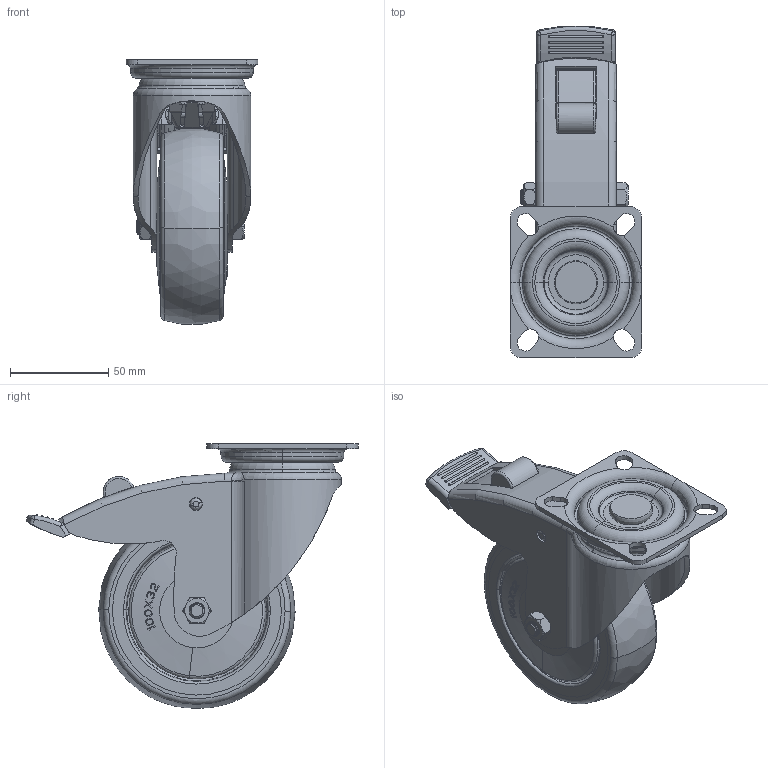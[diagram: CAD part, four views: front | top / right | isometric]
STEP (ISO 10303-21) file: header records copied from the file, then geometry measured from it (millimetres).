
FILE_DESCRIPTION((''),'2;1');
FILE_NAME('5102_ASM','2013-05-09T',('long-way'),(''),'PRO/ENGINEER BY PARAMETRIC TECHNOLOGY CORPORATION, 2011310','PRO/ENGINEER BY PARAMETRIC TECHNOLOGY CORPORATION, 2011310','');
FILE_SCHEMA(('CONFIG_CONTROL_DESIGN'));
Length unit declared in the file: millimetre
Products named in the file (54): 100-TENTE-ZJ__1; MANIFOLD_SOLID_BREP_3933; MANIFOLD_SOLID_BREP_3971; MANIFOLD_SOLID_BREP_4009; MANIFOLD_SOLID_BREP_4047; MANIFOLD_SOLID_BREP_4085; MANIFOLD_SOLID_BREP_4123; MANIFOLD_SOLID_BREP_4161; MANIFOLD_SOLID_BREP_4199; MANIFOLD_SOLID_BREP_4237; MANIFOLD_SOLID_BREP_4275; MANIFOLD_SOLID_BREP_4313; MANIFOLD_SOLID_BREP_4351; MANIFOLD_SOLID_BREP_4389; MANIFOLD_SOLID_BREP_4427; MANIFOLD_SOLID_BREP_4465; MANIFOLD_SOLID_BREP_4503; MANIFOLD_SOLID_BREP_4541; 6BJ__1_ASM; MANIFOLD_SOLID_BREP_10991; MANIFOLD_SOLID_BREP_11029; MANIFOLD_SOLID_BREP_11067; MANIFOLD_SOLID_BREP_11105; MANIFOLD_SOLID_BREP_11143; MANIFOLD_SOLID_BREP_11181; MANIFOLD_SOLID_BREP_11219; MANIFOLD_SOLID_BREP_11257; MANIFOLD_SOLID_BREP_11295; MANIFOLD_SOLID_BREP_11333; MANIFOLD_SOLID_BREP_11371; MANIFOLD_SOLID_BREP_11409; MANIFOLD_SOLID_BREP_11447; MANIFOLD_SOLID_BREP_11485; MANIFOLD_SOLID_BREP_11523; MANIFOLD_SOLID_BREP_11561; MANIFOLD_SOLID_BREP_11599; 5BJ__1_ASM; 150-TENTE-SAWEI__1; 150-TENTE-MP__1; 100-TENTE-NEIXIN__1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
Assembly tree (54 placements, depth 5):
  5102_ASM
    100TENTE_ASM_4_ASM
      100-TENTE-ZJ__1
      6BJ__1_ASM
        MANIFOLD_SOLID_BREP_3933
        MANIFOLD_SOLID_BREP_3971
        MANIFOLD_SOLID_BREP_4009
        MANIFOLD_SOLID_BREP_4047
        MANIFOLD_SOLID_BREP_4085
        MANIFOLD_SOLID_BREP_4123
        MANIFOLD_SOLID_BREP_4161
        MANIFOLD_SOLID_BREP_4199
        MANIFOLD_SOLID_BREP_4237
        MANIFOLD_SOLID_BREP_4275
        MANIFOLD_SOLID_BREP_4313
        MANIFOLD_SOLID_BREP_4351
        MANIFOLD_SOLID_BREP_4389
        MANIFOLD_SOLID_BREP_4427
        MANIFOLD_SOLID_BREP_4465
        MANIFOLD_SOLID_BREP_4503
        MANIFOLD_SOLID_BREP_4541
      5BJ__1_ASM
        MANIFOLD_SOLID_BREP_10991
        MANIFOLD_SOLID_BREP_11029
        MANIFOLD_SOLID_BREP_11067
        MANIFOLD_SOLID_BREP_11105
        MANIFOLD_SOLID_BREP_11143
        MANIFOLD_SOLID_BREP_11181
        MANIFOLD_SOLID_BREP_11219
        MANIFOLD_SOLID_BREP_11257
        MANIFOLD_SOLID_BREP_11295
        MANIFOLD_SOLID_BREP_11333
        MANIFOLD_SOLID_BREP_11371
        MANIFOLD_SOLID_BREP_11409
        MANIFOLD_SOLID_BREP_11447
        MANIFOLD_SOLID_BREP_11485
        MANIFOLD_SOLID_BREP_11523
        MANIFOLD_SOLID_BREP_11561
        MANIFOLD_SOLID_BREP_11599
      150-TENTE-SAWEI__1
      150-TENTE-MP__1
      100-TEMTE-DANLEN__ASM_1_ASM
        100-TENTE-NEIXIN__1
        100-TENTE-ZHOUCHANG__1_ASM
          BREP_WITH_VOIDS_28870
          MANIFOLD_SOLID_BREP_28976
        100-TENTE-BAOJAO__1
        100-TENTE-ZHUANGXIGUAI__1  x2
      M8X60LS__1
      M8LM__1
      67X77FK__1
      XIAOPOPEN_4
      DF_1
      PTD_1
Bounding box: 67 x 169.01 x 134.74 mm (x, y, z)
Volume: 259999.8 mm3; surface area: 161953.9 mm2
Topology: 49 solids, 50 shells, 1532 faces, 4348 edges, 2781 vertices
Faces by surface type: plane 725, cylinder 325, torus 157, sphere 126, cone 118, bspline 78, extrusion 3
Entity records: 52230 total; most frequent: CARTESIAN_POINT 18966, ORIENTED_EDGE 7040, DIRECTION 6697, EDGE_CURVE 3520, AXIS2_PLACEMENT_3D 2754, VERTEX_POINT 2347, CIRCLE 1377, EDGE_LOOP 1365
